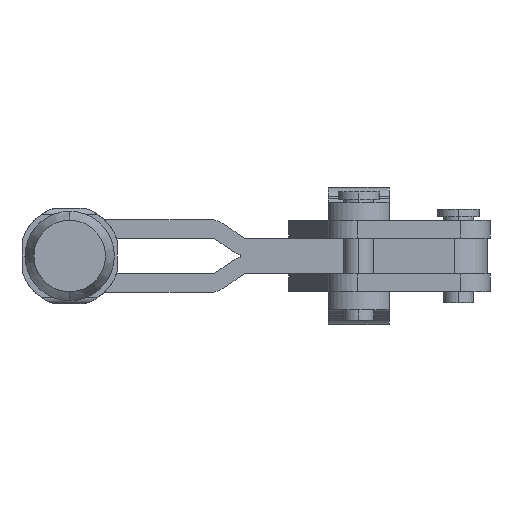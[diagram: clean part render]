
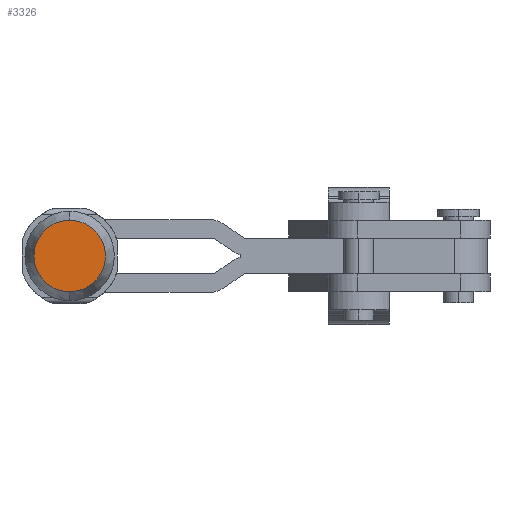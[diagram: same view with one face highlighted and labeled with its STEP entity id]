
A CAD part, front view. The second image highlights one B-rep face of the part: STEP entity #3326.
In plain terms, the highlighted planar face has unit normal (0, -1, 0).
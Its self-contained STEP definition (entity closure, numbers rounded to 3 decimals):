
#2382 = EDGE_CURVE( '', #4444, #4320, #6121, .T. );
#3296 = EDGE_CURVE( '', #4320, #4444, #7151, .T. );
#3326 = ADVANCED_FACE( '', ( #7183 ), #7184, .T. );
#4320 = VERTEX_POINT( '', #8282 );
#4444 = VERTEX_POINT( '', #8416 );
#6121 = CIRCLE( '', #10475, 6. );
#7151 = CIRCLE( '', #12036, 6. );
#7183 = FACE_OUTER_BOUND( '', #12076, .T. );
#7184 = PLANE( '', #12077 );
#8282 = CARTESIAN_POINT( '', ( -43.23, 9.1, -6. ) );
#8416 = CARTESIAN_POINT( '', ( -43.23, 9.1, 6. ) );
#10475 = AXIS2_PLACEMENT_3D( '', #16412, #16413, #16414 );
#12036 = AXIS2_PLACEMENT_3D( '', #17694, #17695, #17696 );
#12076 = EDGE_LOOP( '', ( #17734, #17735 ) );
#12077 = AXIS2_PLACEMENT_3D( '', #17736, #17737, #17738 );
#16412 = CARTESIAN_POINT( '', ( -43.23, 9.1, 0. ) );
#16413 = DIRECTION( '', ( 0., 1., 0. ) );
#16414 = DIRECTION( '', ( 0., 0., -1. ) );
#17694 = CARTESIAN_POINT( '', ( -43.23, 9.1, 0. ) );
#17695 = DIRECTION( '', ( 0., 1., 0. ) );
#17696 = DIRECTION( '', ( 0., 0., -1. ) );
#17734 = ORIENTED_EDGE( '', *, *, #3296, .F. );
#17735 = ORIENTED_EDGE( '', *, *, #2382, .F. );
#17736 = CARTESIAN_POINT( '', ( -43.23, 9.1, -3. ) );
#17737 = DIRECTION( '', ( 0., -1., 0. ) );
#17738 = DIRECTION( '', ( 0., 0., 1. ) );
